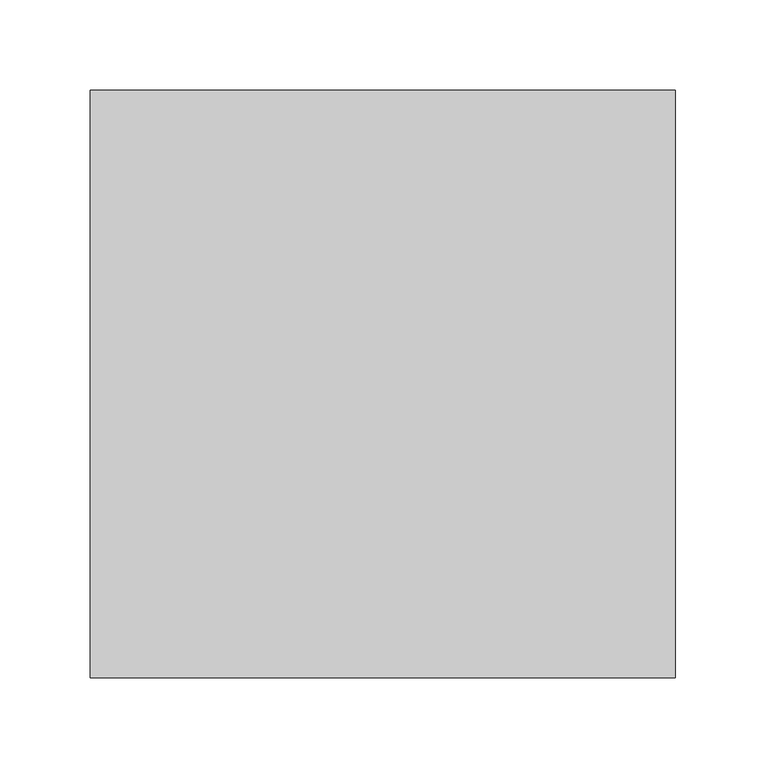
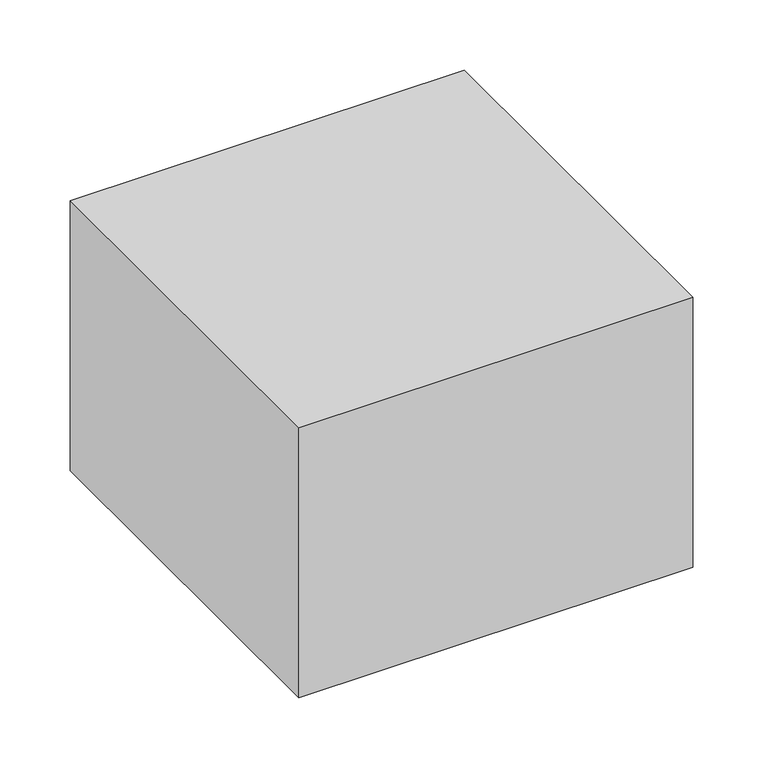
"""IFC4 building model written with IfcOpenShell, lengths in millimetres: column geometry, Column Encasement4 : Column Encasement."""

from ifc_helpers import new_model, si_unit, frame, origin, place, context, project, spatial, polyline, outline, extrude, source, transform, mapped, element, save


def column_b87cddad(model_context):
    return source(origin(), model_context, "Body", "SweptSolid", [
        extrude(outline(polyline([(-29254.1090062, 5310.1866486), (-29254.1090062, 5635.8394306), (-28929.7652152, 5635.8394306), (-28929.7652152, 5310.1866486), (-29254.1090062, 5310.1866486)])), frame((0.0, 0.0, 7.0), z_axis=(0.0, 0.0, 1.0), x_axis=(1.0, 0.0, 0.0)), (0.0, 0.0, 1.0), 235.0),
    ])


if __name__ == "__main__":
    model = new_model("IFC4")
    model_context = context("Model", 3, world=origin())
    ifc_project = project(units=[si_unit("LENGTHUNIT", "METRE", prefix="MILLI")], contexts=[model_context])
    site = spatial("IfcSite", under=ifc_project)
    building = spatial("IfcBuilding", under=site)
    placement = place(None, origin())
    column_shape = column_b87cddad(model_context)
    element("IfcColumn", 1, ObjectType="Column Encasement4 : Column Encasement", at=placement, inside=building, context=model_context, shape_type="MappedRepresentation", body=[
        mapped(column_shape, transform((0.0, 0.0, 0.0), x_axis=(1.0, 0.0, 0.0), y_axis=(0.0, 1.0, 0.0), z_axis=(0.0, 0.0, 1.0))),
    ])
    save(model, "model.ifc")
